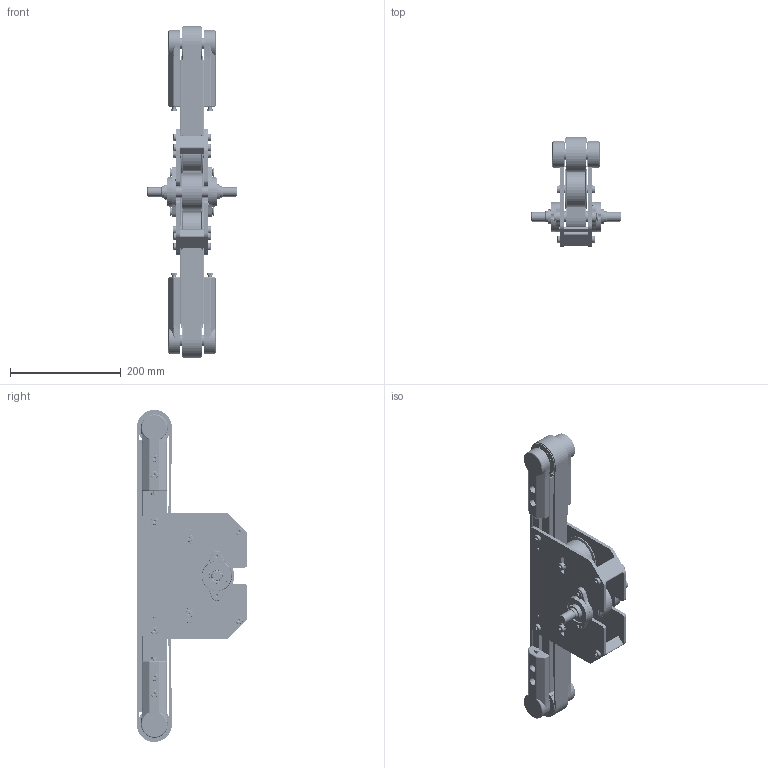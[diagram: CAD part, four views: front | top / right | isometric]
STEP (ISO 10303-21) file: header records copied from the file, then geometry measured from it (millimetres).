
FILE_DESCRIPTION (( 'STEP AP214' ), '1' );
FILE_NAME ('1.9023 HHK 45 32AT10 KVY_KO17_600mm.STEP', '2026-02-25T13:45:04', ( '' ), ( '' ), 'SwSTEP 2.0', 'SolidWorks 2025', '' );
FILE_SCHEMA (( 'AUTOMOTIVE_DESIGN' ));
Length unit declared in the file: millimetre
Products named in the file (27): socket countersunk head screw_din_DIN 7991 - M8 x 16 --- 7.8N; Laakerilevy; 1.9023 HHK 45 32AT10 KVY_KO17_600mm; socket head cap screw_din_DIN 912 M5 x 8 --- 8N; 1.6039 Liukukisko hihnalle 32_Default<As Machined>; plain washer small grade a_din_Washer DIN 433 - 8.4; Laakerilevy 2^HHK45 25AT10 Keskivetoyksikkö; Taittopyörä 25; 1.8112 Taittopää 45 32AT10; 4.0013 Laakeri USBFL 004 JIB; 1.0013 19x32 45mm_Default<As Machined>; 1.8035 Akseli D15 L45; 1.8066 Kulj.laakeri 45_32 G2; 1.8037 Akseli D20_17 L75; 1.0022 Profiili 45X45 L_Default<As Machined>; 1.2024 Neliömutteri M8 kiinnityslevyllä RST; 3.2003 Hammashihnapyörä 32AT10_19D20_K6_0; HHK45 32AT10 Keskivetoyksikkö_Keskiorsi 17mm; 3.2018 Taittopyörä hammashihnalle 32; L00092 Keskivetoyksikön laakerilevy; 1.8111 KVY vetoakseli 17_20_17 L161 Kiila 28; Hammashihna 32AT10_4; 3.2002 Hammashihnapyörä 32AT10_19D20_0; 1.2085 Kuusiokoloruuvi M8x20; 1.2014 Neliömutteri M8 kiinnityslevyllä
Assembly tree (58 placements, depth 5):
  1.9023 HHK 45 32AT10 KVY_KO17_600mm
    1.0022 Profiili 45X45 L_Default<As Machined>
    1.6039 Liukukisko hihnalle 32_Default<As Machined>
    1.8112 Taittopää 45 32AT10
      1.8066 Kulj.laakeri 45_32 G2  x2
      1.8037 Akseli D20_17 L75
      3.2002 Hammashihnapyörä 32AT10_19D20_0
    1.8112 Taittopää 45 32AT10
      1.8066 Kulj.laakeri 45_32 G2  x2
      1.8037 Akseli D20_17 L75
      3.2002 Hammashihnapyörä 32AT10_19D20_0
    HHK45 32AT10 Keskivetoyksikkö_Keskiorsi 17mm
      Laakerilevy
        L00092 Keskivetoyksikön laakerilevy
        Taittopyörä 25
          1.8035 Akseli D15 L45
          3.2018 Taittopyörä hammashihnalle 32
          1.2085 Kuusiokoloruuvi M8x20  x2
          plain washer small grade a_din_Washer DIN 433 - 8.4  x2
        Taittopyörä 25
          1.8035 Akseli D15 L45
          3.2018 Taittopyörä hammashihnalle 32
          1.2085 Kuusiokoloruuvi M8x20  x2
          plain washer small grade a_din_Washer DIN 433 - 8.4  x2
        socket head cap screw_din_DIN 912 M5 x 8 --- 8N  x2
        4.0013 Laakeri USBFL 004 JIB
        1.0013 19x32 45mm_Default<As Machined>  x2
        socket countersunk head screw_din_DIN 7991 - M8 x 16 --- 7.8N  x2
        1.2085 Kuusiokoloruuvi M8x20  x6
        1.2024 Neliömutteri M8 kiinnityslevyllä RST  x2
      Laakerilevy 2^HHK45 25AT10 Keskivetoyksikkö
        L00092 Keskivetoyksikön laakerilevy
        socket countersunk head screw_din_DIN 7991 - M8 x 16 --- 7.8N  x2
        4.0013 Laakeri USBFL 004 JIB
        socket head cap screw_din_DIN 912 M5 x 8 --- 8N  x2
        1.2085 Kuusiokoloruuvi M8x20  x2
        1.2014 Neliömutteri M8 kiinnityslevyllä  x2
      3.2003 Hammashihnapyörä 32AT10_19D20_K6_0
      1.8111 KVY vetoakseli 17_20_17 L161 Kiila 28
    Hammashihna 32AT10_4
Bounding box: 161 x 199.5 x 599.91 mm (x, y, z)
Volume: 1758999.1 mm3; surface area: 932666.5 mm2
Topology: 92 solids, 128 shells, 4505 faces, 11425 edges, 7277 vertices
Faces by surface type: plane 1869, cylinder 1415, bspline 501, cone 452, torus 180, sphere 88
Entity records: 116838 total; most frequent: CARTESIAN_POINT 41063, ORIENTED_EDGE 11518, DIRECTION 10429, EDGE_CURVE 5770, AXIS2_PLACEMENT_3D 3773, VERTEX_POINT 3751, LINE 2883, VECTOR 2883
